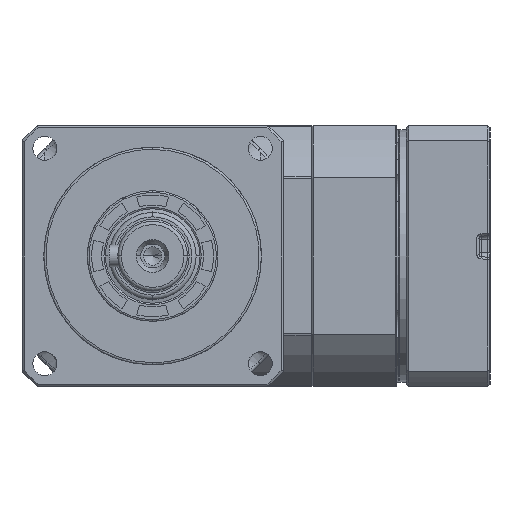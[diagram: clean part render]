
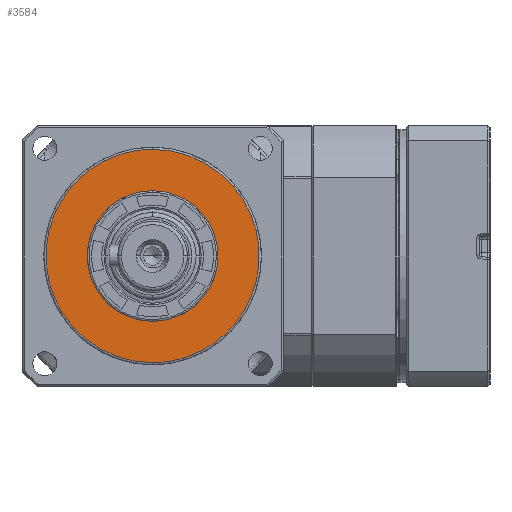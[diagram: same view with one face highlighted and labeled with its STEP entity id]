
A CAD part, left-side view. The second image highlights one B-rep face of the part: STEP entity #3584.
In plain terms, the highlighted planar face has unit normal (-1, 0, 0).
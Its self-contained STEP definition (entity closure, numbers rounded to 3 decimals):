
#1267 = EDGE_CURVE ( 'NONE', #20761, #29028, #40091, .T. ) ;
#3584 = ADVANCED_FACE ( 'NONE', ( #24719, #34832 ), #21543, .F. ) ;
#3690 = ORIENTED_EDGE ( 'NONE', *, *, #44556, .F. ) ;
#4174 = CARTESIAN_POINT ( 'NONE',  ( 2., 0., -24.5 ) ) ;
#4467 = ORIENTED_EDGE ( 'NONE', *, *, #1267, .F. ) ;
#11531 = EDGE_CURVE ( 'NONE', #29028, #20761, #15150, .T. ) ;
#15150 = CIRCLE ( 'NONE', #43816, 15. ) ;
#15440 = EDGE_LOOP ( 'NONE', ( #3690, #37607 ) ) ;
#15560 = CARTESIAN_POINT ( 'NONE',  ( 2., 0., 24.5 ) ) ;
#15615 = CARTESIAN_POINT ( 'NONE',  ( 2., 0., -24.5 ) ) ;
#15807 = CARTESIAN_POINT ( 'NONE',  ( 2., 49., 24.5 ) ) ;
#16012 = CARTESIAN_POINT ( 'NONE',  ( 2., 49., -24.5 ) ) ;
#19130 = CARTESIAN_POINT ( 'NONE',  ( 2., 0., -15. ) ) ;
#19364 =( BOUNDED_CURVE ( )  B_SPLINE_CURVE ( 3, ( #38046, #38113, #37759, #37745 ),
 .UNSPECIFIED., .F., .F. ) 
 B_SPLINE_CURVE_WITH_KNOTS ( ( 4, 4 ),
 ( 0., 1. ),
 .UNSPECIFIED. ) 
 CURVE ( )  GEOMETRIC_REPRESENTATION_ITEM ( )  RATIONAL_B_SPLINE_CURVE ( ( 1., 0.333, 0.333, 1. ) ) 
 REPRESENTATION_ITEM ( '' )  );
#20381 = DIRECTION ( 'NONE',  ( 0., 0., -1. ) ) ;
#20417 = DIRECTION ( 'NONE',  ( 1., 0., 0. ) ) ;
#20496 = CARTESIAN_POINT ( 'NONE',  ( 2., 21.693, 0. ) ) ;
#20761 = VERTEX_POINT ( 'NONE', #19130 ) ;
#21543 = PLANE ( 'NONE',  #24301 ) ;
#24148 = AXIS2_PLACEMENT_3D ( 'NONE', #40913, #40866, #40800 ) ;
#24187 = CARTESIAN_POINT ( 'NONE',  ( 2., 0., 24.5 ) ) ;
#24301 = AXIS2_PLACEMENT_3D ( 'NONE', #20496, #20417, #20381 ) ;
#24719 = FACE_OUTER_BOUND ( 'NONE', #15440, .T. ) ;
#25308 = EDGE_LOOP ( 'NONE', ( #47947, #4467 ) ) ;
#29028 = VERTEX_POINT ( 'NONE', #35232 ) ;
#34832 = FACE_BOUND ( 'NONE', #25308, .T. ) ;
#35232 = CARTESIAN_POINT ( 'NONE',  ( 2., 0., 15. ) ) ;
#37607 = ORIENTED_EDGE ( 'NONE', *, *, #40336, .F. ) ;
#37745 = CARTESIAN_POINT ( 'NONE',  ( 2., 0., -24.5 ) ) ;
#37759 = CARTESIAN_POINT ( 'NONE',  ( 2., -49., -24.5 ) ) ;
#38046 = CARTESIAN_POINT ( 'NONE',  ( 2., 0., 24.5 ) ) ;
#38113 = CARTESIAN_POINT ( 'NONE',  ( 2., -49., 24.5 ) ) ;
#40091 = CIRCLE ( 'NONE', #24148, 15. ) ;
#40336 = EDGE_CURVE ( 'NONE', #42524, #48000, #53059, .T. ) ;
#40800 = DIRECTION ( 'NONE',  ( 0., 0., 1. ) ) ;
#40866 = DIRECTION ( 'NONE',  ( -1., 0., 0. ) ) ;
#40913 = CARTESIAN_POINT ( 'NONE',  ( 2., 0., 0. ) ) ;
#42524 = VERTEX_POINT ( 'NONE', #4174 ) ;
#43816 = AXIS2_PLACEMENT_3D ( 'NONE', #45885, #45843, #45774 ) ;
#44556 = EDGE_CURVE ( 'NONE', #48000, #42524, #19364, .T. ) ;
#45774 = DIRECTION ( 'NONE',  ( 0., 0., 1. ) ) ;
#45843 = DIRECTION ( 'NONE',  ( -1., 0., 0. ) ) ;
#45885 = CARTESIAN_POINT ( 'NONE',  ( 2., 0., 0. ) ) ;
#47947 = ORIENTED_EDGE ( 'NONE', *, *, #11531, .F. ) ;
#48000 = VERTEX_POINT ( 'NONE', #24187 ) ;
#53059 =( BOUNDED_CURVE ( )  B_SPLINE_CURVE ( 3, ( #15615, #16012, #15807, #15560 ),
 .UNSPECIFIED., .F., .F. ) 
 B_SPLINE_CURVE_WITH_KNOTS ( ( 4, 4 ),
 ( 0., 1. ),
 .UNSPECIFIED. ) 
 CURVE ( )  GEOMETRIC_REPRESENTATION_ITEM ( )  RATIONAL_B_SPLINE_CURVE ( ( 1., 0.333, 0.333, 1. ) ) 
 REPRESENTATION_ITEM ( '' )  );
